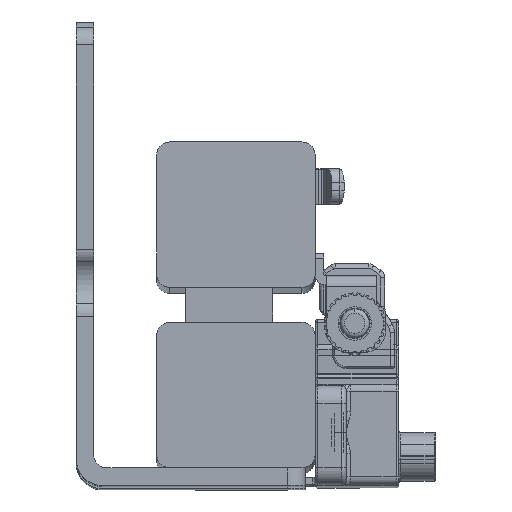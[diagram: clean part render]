
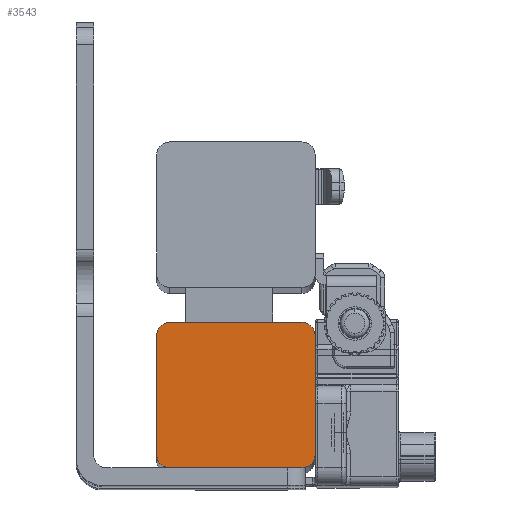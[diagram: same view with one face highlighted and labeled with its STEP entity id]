
A CAD part, top view. The second image highlights one B-rep face of the part: STEP entity #3543.
In plain terms, the highlighted planar face has unit normal (0, 0, 1).
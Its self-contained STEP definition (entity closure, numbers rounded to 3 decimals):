
#1313 = DIRECTION ( 'NONE',  ( -1., 0., 0. ) ) ;
#2032 = VERTEX_POINT ( 'NONE', #67897 ) ;
#2125 = CARTESIAN_POINT ( 'NONE',  ( 5.341, -9.356, 877.805 ) ) ;
#3086 = DIRECTION ( 'NONE',  ( 1., 0., 0. ) ) ;
#3543 = ADVANCED_FACE ( 'NONE', ( #34839 ), #36216, .F. ) ;
#3876 = VERTEX_POINT ( 'NONE', #33646 ) ;
#5191 = ORIENTED_EDGE ( 'NONE', *, *, #31905, .T. ) ;
#6253 = DIRECTION ( 'NONE',  ( 0., 0., -1. ) ) ;
#7316 = VECTOR ( 'NONE', #16302, 1000. ) ;
#7886 = CARTESIAN_POINT ( 'NONE',  ( 20.341, -22.856, 877.805 ) ) ;
#7974 = VECTOR ( 'NONE', #51371, 1000. ) ;
#8440 = CIRCLE ( 'NONE', #27193, 1.5 ) ;
#8573 = DIRECTION ( 'NONE',  ( 0., 0., -1. ) ) ;
#10790 = CARTESIAN_POINT ( 'NONE',  ( 21.841, -24.356, 877.805 ) ) ;
#12869 = CARTESIAN_POINT ( 'NONE',  ( 3.841, -7.856, 877.805 ) ) ;
#15241 = AXIS2_PLACEMENT_3D ( 'NONE', #24099, #8573, #35521 ) ;
#15668 = CARTESIAN_POINT ( 'NONE',  ( 3.841, -9.356, 877.805 ) ) ;
#16302 = DIRECTION ( 'NONE',  ( 0., 1., 0. ) ) ;
#16309 = CIRCLE ( 'NONE', #25085, 1.5 ) ;
#17890 = EDGE_CURVE ( 'NONE', #64591, #21602, #36847, .T. ) ;
#18367 = ORIENTED_EDGE ( 'NONE', *, *, #65539, .T. ) ;
#18634 = CARTESIAN_POINT ( 'NONE',  ( 20.341, -7.856, 877.805 ) ) ;
#20018 = LINE ( 'NONE', #46290, #38648 ) ;
#20889 = ORIENTED_EDGE ( 'NONE', *, *, #44354, .T. ) ;
#21109 = EDGE_CURVE ( 'NONE', #3876, #26442, #65741, .T. ) ;
#21389 = CARTESIAN_POINT ( 'NONE',  ( 20.341, -24.356, 877.805 ) ) ;
#21602 = VERTEX_POINT ( 'NONE', #36001 ) ;
#21818 = LINE ( 'NONE', #10790, #7316 ) ;
#24099 = CARTESIAN_POINT ( 'NONE',  ( 20.351, -22.866, 877.805 ) ) ;
#25085 = AXIS2_PLACEMENT_3D ( 'NONE', #2125, #54003, #44667 ) ;
#26035 = CARTESIAN_POINT ( 'NONE',  ( 5.341, -7.856, 877.805 ) ) ;
#26442 = VERTEX_POINT ( 'NONE', #21389 ) ;
#26932 = CARTESIAN_POINT ( 'NONE',  ( 20.341, -9.356, 877.805 ) ) ;
#27193 = AXIS2_PLACEMENT_3D ( 'NONE', #37384, #6253, #47395 ) ;
#28949 = CARTESIAN_POINT ( 'NONE',  ( 3.841, -22.856, 877.805 ) ) ;
#29269 = CARTESIAN_POINT ( 'NONE',  ( 3.841, -24.356, 877.805 ) ) ;
#29997 = VERTEX_POINT ( 'NONE', #26035 ) ;
#31905 = EDGE_CURVE ( 'NONE', #2032, #26442, #20018, .T. ) ;
#33646 = CARTESIAN_POINT ( 'NONE',  ( 21.841, -22.856, 877.805 ) ) ;
#34152 = DIRECTION ( 'NONE',  ( 0., 0., -1. ) ) ;
#34839 = FACE_OUTER_BOUND ( 'NONE', #43800, .T. ) ;
#35521 = DIRECTION ( 'NONE',  ( 0., -1., 0. ) ) ;
#36001 = CARTESIAN_POINT ( 'NONE',  ( 21.841, -9.356, 877.805 ) ) ;
#36216 = PLANE ( 'NONE',  #15241 ) ;
#36404 = ORIENTED_EDGE ( 'NONE', *, *, #17890, .F. ) ;
#36847 = CIRCLE ( 'NONE', #56691, 1.5 ) ;
#37384 = CARTESIAN_POINT ( 'NONE',  ( 5.341, -22.856, 877.805 ) ) ;
#37660 = DIRECTION ( 'NONE',  ( 0., 0., -1. ) ) ;
#38171 = ORIENTED_EDGE ( 'NONE', *, *, #21109, .F. ) ;
#38648 = VECTOR ( 'NONE', #3086, 1000. ) ;
#39126 = LINE ( 'NONE', #12869, #49531 ) ;
#39342 = DIRECTION ( 'NONE',  ( -1., 0., 0. ) ) ;
#40439 = VERTEX_POINT ( 'NONE', #28949 ) ;
#40678 = LINE ( 'NONE', #29269, #7974 ) ;
#42033 = ORIENTED_EDGE ( 'NONE', *, *, #55061, .F. ) ;
#42508 = ORIENTED_EDGE ( 'NONE', *, *, #58056, .T. ) ;
#43800 = EDGE_LOOP ( 'NONE', ( #38171, #42508, #36404, #18367, #60521, #20889, #42033, #5191 ) ) ;
#44354 = EDGE_CURVE ( 'NONE', #63528, #40439, #40678, .T. ) ;
#44667 = DIRECTION ( 'NONE',  ( -1., 0., 0. ) ) ;
#45830 = AXIS2_PLACEMENT_3D ( 'NONE', #7886, #34152, #39342 ) ;
#46290 = CARTESIAN_POINT ( 'NONE',  ( 21.841, -24.356, 877.805 ) ) ;
#47395 = DIRECTION ( 'NONE',  ( -1., 0., 0. ) ) ;
#49531 = VECTOR ( 'NONE', #55003, 1000. ) ;
#51371 = DIRECTION ( 'NONE',  ( 0., -1., 0. ) ) ;
#54003 = DIRECTION ( 'NONE',  ( 0., 0., -1. ) ) ;
#54160 = EDGE_CURVE ( 'NONE', #63528, #29997, #16309, .T. ) ;
#55003 = DIRECTION ( 'NONE',  ( -1., 0., 0. ) ) ;
#55061 = EDGE_CURVE ( 'NONE', #2032, #40439, #8440, .T. ) ;
#56691 = AXIS2_PLACEMENT_3D ( 'NONE', #26932, #37660, #1313 ) ;
#58056 = EDGE_CURVE ( 'NONE', #3876, #21602, #21818, .T. ) ;
#60521 = ORIENTED_EDGE ( 'NONE', *, *, #54160, .F. ) ;
#63528 = VERTEX_POINT ( 'NONE', #15668 ) ;
#64591 = VERTEX_POINT ( 'NONE', #18634 ) ;
#65539 = EDGE_CURVE ( 'NONE', #64591, #29997, #39126, .T. ) ;
#65741 = CIRCLE ( 'NONE', #45830, 1.5 ) ;
#67897 = CARTESIAN_POINT ( 'NONE',  ( 5.341, -24.356, 877.805 ) ) ;
